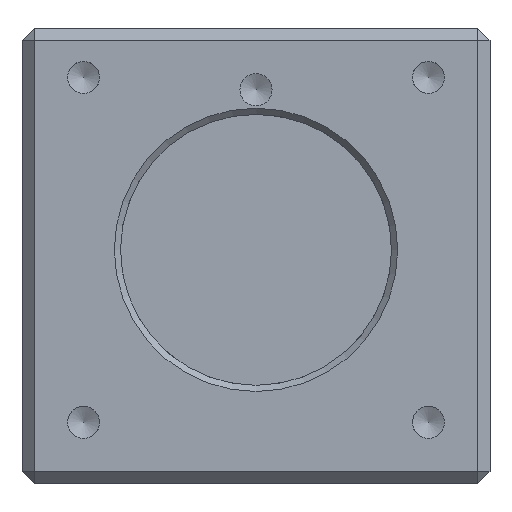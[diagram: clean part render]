
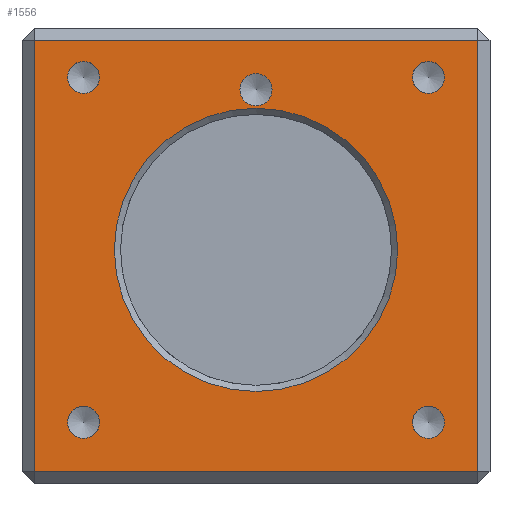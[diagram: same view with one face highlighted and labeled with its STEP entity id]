
A CAD part, front view. The second image highlights one B-rep face of the part: STEP entity #1556.
In plain terms, the highlighted planar face has unit normal (0, -1, 0).
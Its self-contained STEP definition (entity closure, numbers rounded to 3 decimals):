
#471=FACE_BOUND('',#3293,.T.);
#472=FACE_BOUND('',#3294,.T.);
#473=FACE_BOUND('',#3295,.T.);
#474=FACE_BOUND('',#3296,.T.);
#475=FACE_BOUND('',#3297,.T.);
#476=FACE_BOUND('',#3298,.T.);
#477=FACE_BOUND('',#3299,.T.);
#965=PLANE('',#16716);
#1556=ADVANCED_FACE('',(#471,#472,#473,#474,#475,#476,#477),#965,.T.);
#3293=EDGE_LOOP('',(#8322,#8323,#8324,#8325));
#3294=EDGE_LOOP('',(#8326));
#3295=EDGE_LOOP('',(#8327));
#3296=EDGE_LOOP('',(#8328));
#3297=EDGE_LOOP('',(#8329));
#3298=EDGE_LOOP('',(#8330));
#3299=EDGE_LOOP('',(#8331));
#4981=LINE('',#21914,#6515);
#4982=LINE('',#21917,#6516);
#4983=LINE('',#21919,#6517);
#4984=LINE('',#21921,#6518);
#6515=VECTOR('',#17960,1.);
#6516=VECTOR('',#17961,1.);
#6517=VECTOR('',#17962,1.);
#6518=VECTOR('',#17963,1.);
#8322=ORIENTED_EDGE('',*,*,#14284,.T.);
#8323=ORIENTED_EDGE('',*,*,#14285,.T.);
#8324=ORIENTED_EDGE('',*,*,#14286,.T.);
#8325=ORIENTED_EDGE('',*,*,#14287,.T.);
#8326=ORIENTED_EDGE('',*,*,#14288,.T.);
#8327=ORIENTED_EDGE('',*,*,#14289,.T.);
#8328=ORIENTED_EDGE('',*,*,#14290,.T.);
#8329=ORIENTED_EDGE('',*,*,#14291,.T.);
#8330=ORIENTED_EDGE('',*,*,#14292,.T.);
#8331=ORIENTED_EDGE('',*,*,#14293,.T.);
#12698=VERTEX_POINT('',#21915);
#12699=VERTEX_POINT('',#21916);
#12700=VERTEX_POINT('',#21918);
#12701=VERTEX_POINT('',#21920);
#12702=VERTEX_POINT('',#21923);
#12703=VERTEX_POINT('',#21925);
#12704=VERTEX_POINT('',#21927);
#12705=VERTEX_POINT('',#21929);
#12706=VERTEX_POINT('',#21931);
#12707=VERTEX_POINT('',#21933);
#14284=EDGE_CURVE('',#12698,#12699,#4981,.T.);
#14285=EDGE_CURVE('',#12699,#12700,#4982,.T.);
#14286=EDGE_CURVE('',#12700,#12701,#4983,.T.);
#14287=EDGE_CURVE('',#12701,#12698,#4984,.T.);
#14288=EDGE_CURVE('',#12702,#12702,#16434,.T.);
#14289=EDGE_CURVE('',#12703,#12703,#16435,.T.);
#14290=EDGE_CURVE('',#12704,#12704,#16436,.T.);
#14291=EDGE_CURVE('',#12705,#12705,#16437,.T.);
#14292=EDGE_CURVE('',#12706,#12706,#16438,.T.);
#14293=EDGE_CURVE('',#12707,#12707,#16439,.T.);
#16434=CIRCLE('',#16710,11.5);
#16435=CIRCLE('',#16711,1.3);
#16436=CIRCLE('',#16712,1.3);
#16437=CIRCLE('',#16713,1.3);
#16438=CIRCLE('',#16714,1.3);
#16439=CIRCLE('',#16715,1.3);
#16710=AXIS2_PLACEMENT_3D('',#21922,#17964,#17965);
#16711=AXIS2_PLACEMENT_3D('',#21924,#17966,#17967);
#16712=AXIS2_PLACEMENT_3D('',#21926,#17968,#17969);
#16713=AXIS2_PLACEMENT_3D('',#21928,#17970,#17971);
#16714=AXIS2_PLACEMENT_3D('',#21930,#17972,#17973);
#16715=AXIS2_PLACEMENT_3D('',#21932,#17974,#17975);
#16716=AXIS2_PLACEMENT_3D('',#21934,#17976,#17977);
#17960=DIRECTION('',(-1.,0.,0.));
#17961=DIRECTION('',(0.,0.,-1.));
#17962=DIRECTION('',(1.,0.,0.));
#17963=DIRECTION('',(0.,0.,1.));
#17964=DIRECTION('',(0.,1.,0.));
#17965=DIRECTION('',(0.,0.,-1.));
#17966=DIRECTION('',(0.,1.,0.));
#17967=DIRECTION('',(1.,0.,0.));
#17968=DIRECTION('',(0.,1.,0.));
#17969=DIRECTION('',(0.,0.,-1.));
#17970=DIRECTION('',(0.,1.,0.));
#17971=DIRECTION('',(-1.,0.,0.));
#17972=DIRECTION('',(0.,1.,0.));
#17973=DIRECTION('',(0.,0.,1.));
#17974=DIRECTION('',(0.,1.,0.));
#17975=DIRECTION('',(0.,0.,1.));
#17976=DIRECTION('',(0.,-1.,0.));
#17977=DIRECTION('',(0.,0.,-1.));
#21914=CARTESIAN_POINT('',(19.,0.,36.));
#21915=CARTESIAN_POINT('',(37.,0.,36.));
#21916=CARTESIAN_POINT('',(1.,0.,36.));
#21917=CARTESIAN_POINT('',(1.,0.,0.));
#21918=CARTESIAN_POINT('',(1.,0.,1.));
#21919=CARTESIAN_POINT('',(19.,0.,1.));
#21920=CARTESIAN_POINT('',(37.,0.,1.));
#21921=CARTESIAN_POINT('',(37.,0.,0.));
#21922=CARTESIAN_POINT('',(19.,0.,19.));
#21923=CARTESIAN_POINT('',(19.,0.,7.5));
#21924=CARTESIAN_POINT('',(5.,0.,5.));
#21925=CARTESIAN_POINT('',(6.3,0.,5.));
#21926=CARTESIAN_POINT('',(5.,0.,33.));
#21927=CARTESIAN_POINT('',(5.,0.,31.7));
#21928=CARTESIAN_POINT('',(33.,0.,33.));
#21929=CARTESIAN_POINT('',(31.7,0.,33.));
#21930=CARTESIAN_POINT('',(33.,0.,5.));
#21931=CARTESIAN_POINT('',(33.,0.,6.3));
#21932=CARTESIAN_POINT('',(19.,0.,32.));
#21933=CARTESIAN_POINT('',(19.,0.,33.3));
#21934=CARTESIAN_POINT('',(19.,0.,0.));
